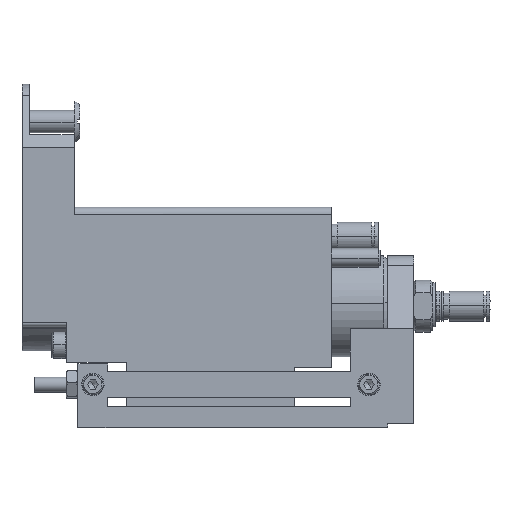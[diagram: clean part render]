
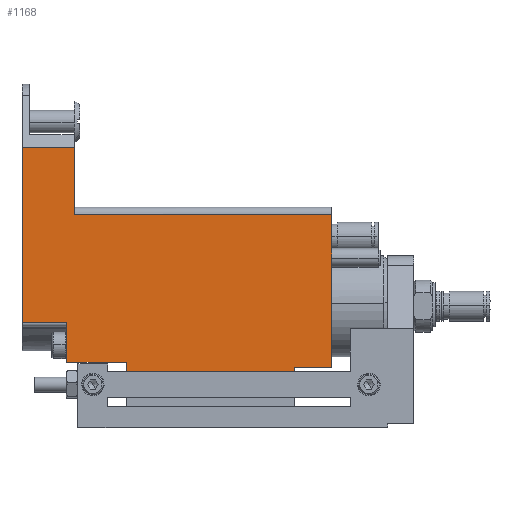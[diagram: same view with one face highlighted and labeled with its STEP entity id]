
A CAD part, top view. The second image highlights one B-rep face of the part: STEP entity #1168.
In plain terms, the highlighted free-form (B-spline) face has degree [1, 1] with [2, 2] control points.
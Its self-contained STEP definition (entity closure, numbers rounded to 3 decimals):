
#1168=ADVANCED_FACE('',(#2768),#2769,.T.);
#2768=FACE_OUTER_BOUND('',#5897,.T.);
#2769=B_SPLINE_SURFACE_WITH_KNOTS('',1,1,((#5898,#5899),(#5900,#5901)),.UNSPECIFIED.,.F.,.F.,.F.,(2,2),(2,2),(0.0,91.29),(0.0,65.994),.UNSPECIFIED.);
#5897=EDGE_LOOP('',(#13655,#13656,#13657,#13658,#13659,#13660,#13661,#13662,#13663,#13664,#13665,#13666));
#5898=CARTESIAN_POINT('',(-23.146,-25.997,21.0));
#5899=CARTESIAN_POINT('',(-23.146,39.997,21.0));
#5900=CARTESIAN_POINT('',(68.145,-25.997,21.0));
#5901=CARTESIAN_POINT('',(68.145,39.997,21.0));
#13655=ORIENTED_EDGE('',*,*,#18095,.F.);
#13656=ORIENTED_EDGE('',*,*,#18096,.F.);
#13657=ORIENTED_EDGE('',*,*,#18097,.T.);
#13658=ORIENTED_EDGE('',*,*,#18098,.F.);
#13659=ORIENTED_EDGE('',*,*,#17737,.T.);
#13660=ORIENTED_EDGE('',*,*,#18099,.T.);
#13661=ORIENTED_EDGE('',*,*,#18100,.T.);
#13662=ORIENTED_EDGE('',*,*,#18101,.T.);
#13663=ORIENTED_EDGE('',*,*,#17903,.T.);
#13664=ORIENTED_EDGE('',*,*,#18102,.T.);
#13665=ORIENTED_EDGE('',*,*,#17810,.F.);
#13666=ORIENTED_EDGE('',*,*,#18103,.F.);
#17737=EDGE_CURVE('',#20552,#20550,#20553,.T.);
#17810=EDGE_CURVE('',#20681,#20684,#20685,.T.);
#17903=EDGE_CURVE('',#20848,#20849,#20850,.T.);
#18095=EDGE_CURVE('',#21148,#21149,#21150,.T.);
#18096=EDGE_CURVE('',#21151,#21148,#21152,.T.);
#18097=EDGE_CURVE('',#21151,#21153,#21154,.T.);
#18098=EDGE_CURVE('',#20552,#21153,#21155,.T.);
#18099=EDGE_CURVE('',#20550,#21156,#21157,.T.);
#18100=EDGE_CURVE('',#21156,#21158,#21159,.T.);
#18101=EDGE_CURVE('',#21158,#20848,#21160,.T.);
#18102=EDGE_CURVE('',#20849,#20684,#21161,.T.);
#18103=EDGE_CURVE('',#21149,#20681,#21162,.T.);
#20550=VERTEX_POINT('',#25886);
#20552=VERTEX_POINT('',#25889);
#20553=B_SPLINE_CURVE_WITH_KNOTS('',1,(#25890,#25891),.UNSPECIFIED.,.F.,.F.,(2,2),(0.0,1.0),.UNSPECIFIED.);
#20681=VERTEX_POINT('',#26239);
#20684=VERTEX_POINT('',#26251);
#20685=B_SPLINE_CURVE_WITH_KNOTS('',1,(#26252,#26253),.UNSPECIFIED.,.F.,.F.,(2,2),(0.0,1.0),.UNSPECIFIED.);
#20848=VERTEX_POINT('',#26832);
#20849=VERTEX_POINT('',#26833);
#20850=B_SPLINE_CURVE_WITH_KNOTS('',1,(#26834,#26835),.UNSPECIFIED.,.F.,.F.,(2,2),(0.0,1.0),.UNSPECIFIED.);
#21148=VERTEX_POINT('',#27930);
#21149=VERTEX_POINT('',#27931);
#21150=B_SPLINE_CURVE_WITH_KNOTS('',1,(#27932,#27933),.UNSPECIFIED.,.F.,.F.,(2,2),(0.0,1.0),.UNSPECIFIED.);
#21151=VERTEX_POINT('',#27934);
#21152=B_SPLINE_CURVE_WITH_KNOTS('',1,(#27935,#27936),.UNSPECIFIED.,.F.,.F.,(2,2),(0.0,1.0),.UNSPECIFIED.);
#21153=VERTEX_POINT('',#27937);
#21154=B_SPLINE_CURVE_WITH_KNOTS('',1,(#27938,#27939),.UNSPECIFIED.,.F.,.F.,(2,2),(0.0,1.0),.UNSPECIFIED.);
#21155=B_SPLINE_CURVE_WITH_KNOTS('',1,(#27940,#27941),.UNSPECIFIED.,.F.,.F.,(2,2),(0.0,1.0),.UNSPECIFIED.);
#21156=VERTEX_POINT('',#27942);
#21157=B_SPLINE_CURVE_WITH_KNOTS('',1,(#27943,#27944),.UNSPECIFIED.,.F.,.F.,(2,2),(0.0,1.0),.UNSPECIFIED.);
#21158=VERTEX_POINT('',#27945);
#21159=B_SPLINE_CURVE_WITH_KNOTS('',1,(#27946,#27947),.UNSPECIFIED.,.F.,.F.,(2,2),(0.0,1.0),.UNSPECIFIED.);
#21160=B_SPLINE_CURVE_WITH_KNOTS('',1,(#27948,#27949),.UNSPECIFIED.,.F.,.F.,(2,2),(0.0,1.0),.UNSPECIFIED.);
#21161=B_SPLINE_CURVE_WITH_KNOTS('',1,(#27950,#27951),.UNSPECIFIED.,.F.,.F.,(2,2),(0.0,1.0),.UNSPECIFIED.);
#21162=B_SPLINE_CURVE_WITH_KNOTS('',1,(#27952,#27953),.UNSPECIFIED.,.F.,.F.,(2,2),(0.0,1.0),.UNSPECIFIED.);
#25886=CARTESIAN_POINT('',(53.999,-22.,21.0));
#25889=CARTESIAN_POINT('',(53.999,-23.0,21.0));
#25890=CARTESIAN_POINT('',(53.999,-23.0,21.0));
#25891=CARTESIAN_POINT('',(53.999,-22.,21.0));
#26239=CARTESIAN_POINT('',(-19.0,-10.,21.0));
#26251=CARTESIAN_POINT('',(-19.0,37.,21.0));
#26252=CARTESIAN_POINT('',(-19.0,-10.,21.0));
#26253=CARTESIAN_POINT('',(-19.0,37.,21.0));
#26832=CARTESIAN_POINT('',(-5.0,19.,21.0));
#26833=CARTESIAN_POINT('',(-5.0,37.,21.0));
#26834=CARTESIAN_POINT('',(-5.0,19.,21.0));
#26835=CARTESIAN_POINT('',(-5.0,37.,21.0));
#27930=CARTESIAN_POINT('',(-7.0,-20.5,21.0));
#27931=CARTESIAN_POINT('',(-7.0,-10.,21.0));
#27932=CARTESIAN_POINT('',(-7.0,-20.5,21.0));
#27933=CARTESIAN_POINT('',(-7.0,-10.,21.0));
#27934=CARTESIAN_POINT('',(9.0,-20.5,21.0));
#27935=CARTESIAN_POINT('',(9.0,-20.5,21.0));
#27936=CARTESIAN_POINT('',(-7.0,-20.5,21.0));
#27937=CARTESIAN_POINT('',(9.0,-23.0,21.0));
#27938=CARTESIAN_POINT('',(9.0,-20.5,21.0));
#27939=CARTESIAN_POINT('',(9.0,-23.0,21.0));
#27940=CARTESIAN_POINT('',(53.999,-23.0,21.0));
#27941=CARTESIAN_POINT('',(9.0,-23.0,21.0));
#27942=CARTESIAN_POINT('',(63.999,-22.,21.0));
#27943=CARTESIAN_POINT('',(53.999,-22.,21.0));
#27944=CARTESIAN_POINT('',(63.999,-22.,21.0));
#27945=CARTESIAN_POINT('',(63.999,19.,21.0));
#27946=CARTESIAN_POINT('',(63.999,-22.,21.0));
#27947=CARTESIAN_POINT('',(63.999,19.,21.0));
#27948=CARTESIAN_POINT('',(63.999,19.,21.0));
#27949=CARTESIAN_POINT('',(-5.0,19.,21.0));
#27950=CARTESIAN_POINT('',(-5.0,37.,21.0));
#27951=CARTESIAN_POINT('',(-19.0,37.,21.0));
#27952=CARTESIAN_POINT('',(-7.0,-10.,21.0));
#27953=CARTESIAN_POINT('',(-19.0,-10.,21.0));
